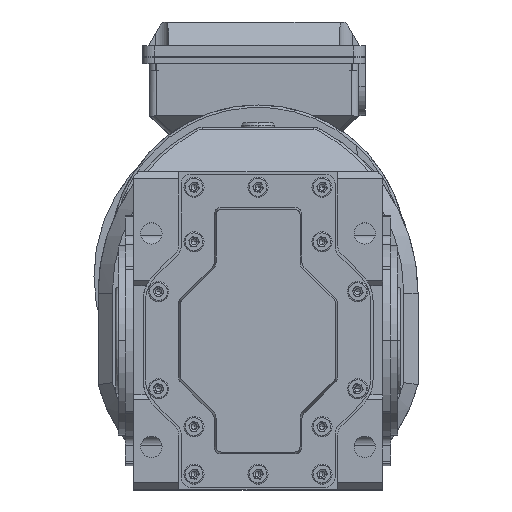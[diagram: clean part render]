
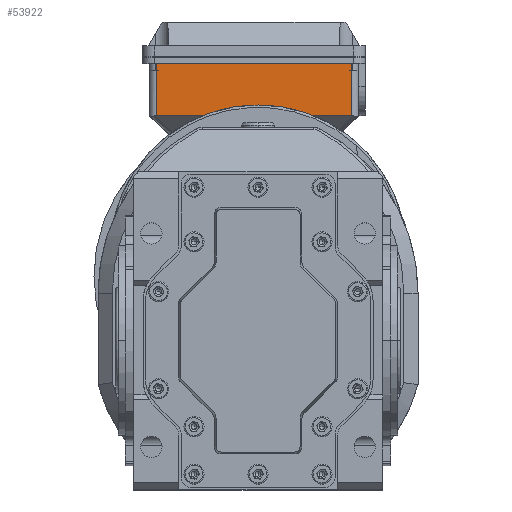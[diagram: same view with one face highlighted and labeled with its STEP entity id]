
A CAD part, top view. The second image highlights one B-rep face of the part: STEP entity #53922.
In plain terms, the highlighted planar face has unit normal (0, 0, 1) as drawn and (0, 0, -1) by its records, which use the part's own axes.
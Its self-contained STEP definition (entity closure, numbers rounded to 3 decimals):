
#226 = LINE ( 'NONE', #36204, #229 ) ;
#229 = VECTOR ( 'NONE', #36235, 1000. ) ;
#298 = LINE ( 'NONE', #35368, #331 ) ;
#331 = VECTOR ( 'NONE', #35359, 1000. ) ;
#463 = VECTOR ( 'NONE', #34361, 1000. ) ;
#504 = LINE ( 'NONE', #34368, #463 ) ;
#2110 = CARTESIAN_POINT ( 'NONE',  ( -41.25, -12.5, -44.25 ) ) ;
#6015 = CARTESIAN_POINT ( 'NONE',  ( -44.25, -17.5, -44.25 ) ) ;
#6018 = DIRECTION ( 'NONE',  ( 1., 0., 0. ) ) ;
#6020 = DIRECTION ( 'NONE',  ( 0., 0., 1. ) ) ;
#6034 = PLANE ( 'NONE',  #69908 ) ;
#7555 = CARTESIAN_POINT ( 'NONE',  ( 41.25, 9.5, -44.25 ) ) ;
#7591 = CARTESIAN_POINT ( 'NONE',  ( 41.25, -12.5, -44.25 ) ) ;
#7595 = CARTESIAN_POINT ( 'NONE',  ( -41.25, 9.5, -44.25 ) ) ;
#8441 = VECTOR ( 'NONE', #34452, 1000. ) ;
#8464 = LINE ( 'NONE', #34560, #8441 ) ;
#15445 = EDGE_CURVE ( 'NONE', #53519, #53541, #226, .T. ) ;
#15457 = EDGE_CURVE ( 'NONE', #55776, #53519, #298, .T. ) ;
#15491 = EDGE_CURVE ( 'NONE', #53563, #55776, #504, .T. ) ;
#15534 = EDGE_CURVE ( 'NONE', #53541, #53563, #8464, .T. ) ;
#23302 = FACE_OUTER_BOUND ( 'NONE', #71905, .T. ) ;
#34361 = DIRECTION ( 'NONE',  ( 0., -1., 0. ) ) ;
#34368 = CARTESIAN_POINT ( 'NONE',  ( -41.25, -17.5, -44.25 ) ) ;
#34452 = DIRECTION ( 'NONE',  ( -1., 0., 0. ) ) ;
#34560 = CARTESIAN_POINT ( 'NONE',  ( -44.25, 9.5, -44.25 ) ) ;
#35359 = DIRECTION ( 'NONE',  ( 1., 0., 0. ) ) ;
#35368 = CARTESIAN_POINT ( 'NONE',  ( -44.25, -12.5, -44.25 ) ) ;
#36204 = CARTESIAN_POINT ( 'NONE',  ( 41.25, -17.5, -44.25 ) ) ;
#36235 = DIRECTION ( 'NONE',  ( 0., 1., 0. ) ) ;
#44421 = ORIENTED_EDGE ( 'NONE', *, *, #15445, .F. ) ;
#44486 = ORIENTED_EDGE ( 'NONE', *, *, #15491, .F. ) ;
#44531 = ORIENTED_EDGE ( 'NONE', *, *, #15534, .F. ) ;
#44547 = ORIENTED_EDGE ( 'NONE', *, *, #15457, .F. ) ;
#53519 = VERTEX_POINT ( 'NONE', #7591 ) ;
#53541 = VERTEX_POINT ( 'NONE', #7555 ) ;
#53563 = VERTEX_POINT ( 'NONE', #7595 ) ;
#53922 = ADVANCED_FACE ( 'NONE', ( #23302 ), #6034, .F. ) ;
#55776 = VERTEX_POINT ( 'NONE', #2110 ) ;
#69908 = AXIS2_PLACEMENT_3D ( 'NONE', #6015, #6020, #6018 ) ;
#71905 = EDGE_LOOP ( 'NONE', ( #44486, #44531, #44421, #44547 ) ) ;
